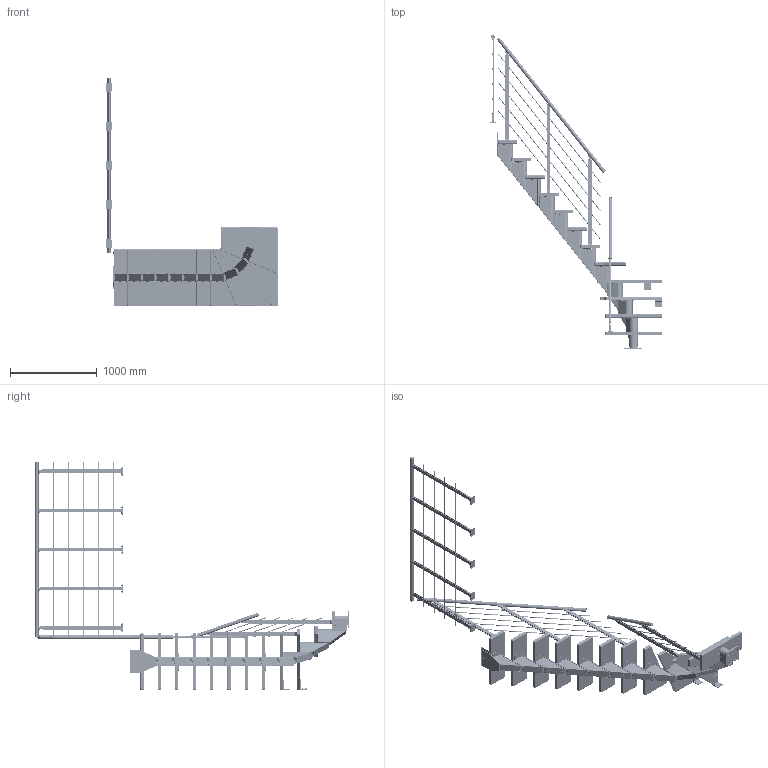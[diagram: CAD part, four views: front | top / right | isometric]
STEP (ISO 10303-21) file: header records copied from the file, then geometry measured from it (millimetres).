
FILE_DESCRIPTION (( 'STEP AP214' ), '1' );
FILE_NAME ('5487 - FRANKFURT ¼-sving DESIGN gelænder.STEP', '2021-09-17T08:06:32', ( '' ), ( '' ), 'SwSTEP 2.0', 'SolidWorks 2019', '' );
FILE_SCHEMA (( 'AUTOMOTIVE_DESIGN' ));
Length unit declared in the file: millimetre
Products named in the file (134): K2-1077425_K2-1077427; K2-1077712_Left; K1-1077295_Default<As Machined>; K1-1077710; M2-1078309; K3-06338; 1077480-01_13; K3-08023-1; K1-1077720_Welded; K2-1077705_K2-1077707; K3-02134; HÅNDLISTE^5083870; K2-1077700_K2-1077702; K2-1077735_90ø; K3-10450; K3-08023; K3-10454; 5487 - FRANKFURT ¼-sving DESIGN gelænder; 5083870; K1-1077411; K3-02133; K2-1077725; K3-10452; K1-1077705; WIRE Ø10^5083870_02; WIRE Ø10^5083870_03; K2-1077420_K2-1077422; M2-1078300; K3-02130; K2-1077730; K1-34021; K3-08001; 1077725; K3-08023-2; M2-1078307; K1-18049; K1-1077070_K1-1077072; K3-04001_M10 DIN 125 - A ; K1-34010; K1-1077720-1_Welded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
Assembly tree (404 placements, depth 5):
  5487 - FRANKFURT ¼-sving DESIGN gelænder
    5083870
      1077480-01_13
        K2-1077420_K2-1077422
          K1-34031
          K1-34030
          K1-1077002
        K2-1077425_K2-1077427
          K1-34031
          K1-34030
        K2-1077425_K2-1077427
          K1-34031
          K1-34030
        K2-1077425_K2-1077427
          K1-34031
          K1-34030
        K2-1077425_K2-1077427
          K1-34031
          K1-34030
        K2-1077425_K2-1077427
          K1-34031
          K1-34030
        K2-1077425_K2-1077427
          K1-34031
          K1-34030
        K2-1077425_K2-1077427
          K1-34031
          K1-34030
        K2-1077425_K2-1077427
          K1-34031
          K1-34030
        K2-1077425_K2-1077427
          K1-34031
          K1-34030
        K2-1077425_K2-1077427
          K1-34031
          K1-34030
        K2-1077430_K2-1077432
          K1-34021
          K1-34020___
          K1-1077411
        K2-1077440_K2-1077442
          K1-34010
          K1-34011
        K1-1077400_K1-1077402
        K1-1077070_K1-1077072
      M2-1078300
      M2-1078301  x7
      M2-1078306
      M2-1078307
      M2-1078308
      M2-1078309
      HÅNDLISTE^5083870
        M2-1078905
        M2-1078905
        K1-1077720_Welded
          K1-1077720-1_Welded
          K3-06360
        K1-1077720_Welded
          K1-1077720-1_Welded
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Bounding box: 1978.44 x 3611.91 x 2620 mm (x, y, z)
Volume: 91033058.1 mm3; surface area: 12621141.8 mm2
Topology: 341 solids, 341 shells, 9191 faces, 21114 edges, 12630 vertices
Faces by surface type: plane 3299, cylinder 2795, cone 2024, bspline 671, torus 402
Entity records: 78115 total; most frequent: CARTESIAN_POINT 31212, DIRECTION 8931, ORIENTED_EDGE 8074, EDGE_CURVE 4037, AXIS2_PLACEMENT_3D 3520, VERTEX_POINT 2476, EDGE_LOOP 1911, VECTOR 1891
